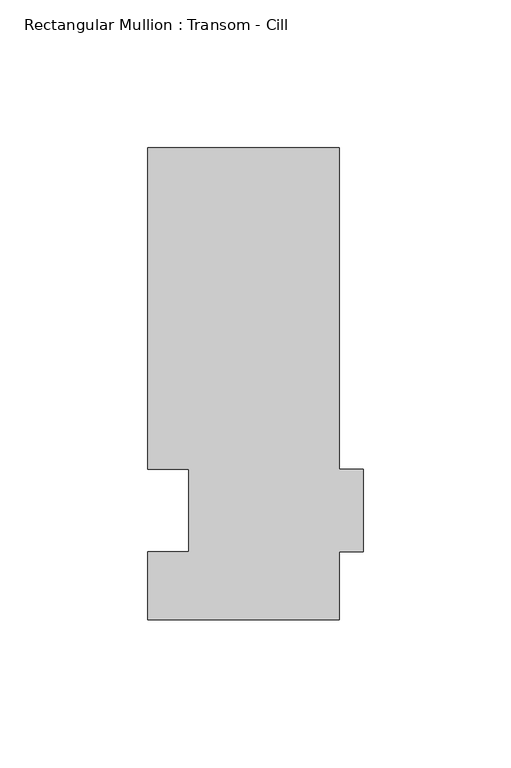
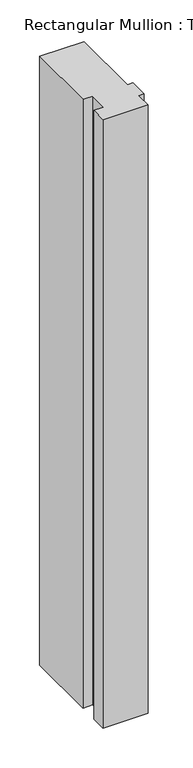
"""IFC4 building model written with IfcOpenShell, lengths in millimetres: member geometry, Rectangular Mullion : Transom - Cill."""

import ifcopenshell
import ifcopenshell.guid

model = None  # the IFC model being written
_history = None  # IfcOwnerHistory: only IFC2X3 demands one
_inside = {}  # id of a spatial element -> (the spatial element, [elements in it])
_under = {}  # id of a project, library or spatial element -> (it, [spatial elements below it])
_declared = {}  # id of a project -> (the project, [libraries it declares])
_typed = {}  # id of a type object -> (the type object, [elements of that type])
_made_of = {}  # id of a material, layer set ... -> (it, [elements and type objects made of it])


def new_model(schema):
    """Start an empty IFC model of exactly this schema.

    Asked for "IFC4X3", IfcOpenShell would pick the latest addendum, in which some entities
    have other attributes; the version numbers below select the first issue.
    IFC2X3 requires an IfcOwnerHistory on every rooted entity: one is made here for all.
    """
    global model, _history
    if schema == "IFC4X3":
        model = ifcopenshell.file(schema_version=(4, 3, 0, 0))
    else:
        model = ifcopenshell.file(schema=schema)
    _inside.clear()
    _under.clear()
    _declared.clear()
    _typed.clear()
    _made_of.clear()
    _history = None
    if model.schema == "IFC2X3":
        org = make("IfcOrganization", Name="unknown")
        user = make(
            "IfcPersonAndOrganization",
            ThePerson=make("IfcPerson", FamilyName="unknown"),
            TheOrganization=org,
        )
        app = make(
            "IfcApplication",
            ApplicationDeveloper=org,
            Version="unknown",
            ApplicationFullName="unknown",
            ApplicationIdentifier="unknown",
        )
        _history = make(
            "IfcOwnerHistory",
            OwningUser=user,
            OwningApplication=app,
            ChangeAction="ADDED",
            CreationDate=0,
        )
    return model


def make(cls, **values):
    """One entity of the class cls with the attributes given. An attribute that is None is left unset."""
    return model.create_entity(
        cls, **{name: value for name, value in values.items() if value is not None}
    )


def rooted(cls, **values):
    """An entity with a GlobalId (a new one), such as an element, a storey or a relation."""
    return make(cls, GlobalId=ifcopenshell.guid.new(), OwnerHistory=_history, **values)


def si_unit(unit_type, name, prefix=None):
    """IfcSIUnit, for example si_unit("LENGTHUNIT", "METRE", prefix="MILLI")."""
    return make("IfcSIUnit", UnitType=unit_type, Prefix=prefix, Name=name)


def assignment(units):
    """IfcUnitAssignment: the units of a project."""
    return None if units is None else make("IfcUnitAssignment", Units=units)


def point(xyz):
    """IfcCartesianPoint."""
    return None if xyz is None else make("IfcCartesianPoint", Coordinates=xyz)


def direction(xyz):
    """IfcDirection."""
    return None if xyz is None else make("IfcDirection", DirectionRatios=xyz)


def frame(location, z_axis=None, x_axis=None):
    """IfcAxis2Placement3D, a coordinate frame: its origin and axes. An axis left out is left unset."""
    return make(
        "IfcAxis2Placement3D",
        Location=point(location),
        Axis=direction(z_axis),
        RefDirection=direction(x_axis),
    )


def origin():
    """The frame at (0, 0, 0) with its axes left unset."""
    return frame((0.0, 0.0, 0.0))


def place(relative_to, where):
    """IfcLocalPlacement: puts the frame where relative to a parent placement (None: the world)."""
    return make(
        "IfcLocalPlacement", PlacementRelTo=relative_to, RelativePlacement=where
    )


def context(
    kind, dimensions, precision=None, world=None, true_north=None, identifier=None
):
    """IfcGeometricRepresentationContext, for example the 3D "Model" context."""
    return make(
        "IfcGeometricRepresentationContext",
        ContextIdentifier=identifier,
        ContextType=kind,
        CoordinateSpaceDimension=dimensions,
        Precision=precision,
        WorldCoordinateSystem=world,
        TrueNorth=true_north,
    )


def project(units=None, contexts=None):
    """IfcProject with its units and contexts."""
    return rooted(
        "IfcProject",
        Name="project",
        RepresentationContexts=contexts,
        UnitsInContext=assignment(units),
    )


def spatial(cls, under=None, at=None, **own):
    """A site, building, storey or space (cls), placed at a placement, below another one or the project."""
    s = rooted(cls, ObjectPlacement=at, **own)
    if under is not None:
        _under.setdefault(under.id(), (under, []))[1].append(s)
    return s


def polyline(points):
    """IfcPolyline through the points."""
    return make("IfcPolyline", Points=[point(p) for p in points])


def outline(outer, holes=None, kind="AREA"):
    """IfcArbitraryClosedProfileDef: a profile drawn as a closed curve; with holes, ...WithVoids."""
    if holes is None:
        return make("IfcArbitraryClosedProfileDef", ProfileType=kind, OuterCurve=outer)
    return make(
        "IfcArbitraryProfileDefWithVoids",
        ProfileType=kind,
        OuterCurve=outer,
        InnerCurves=holes,
    )


def extrude(swept, where, along, depth):
    """IfcExtrudedAreaSolid: the profile swept, set in the frame where, extruded along a direction by depth."""
    return make(
        "IfcExtrudedAreaSolid",
        SweptArea=swept,
        Position=where,
        ExtrudedDirection=direction(along),
        Depth=depth,
    )


def shape(context_of_items, identifier, shape_type, items):
    """IfcShapeRepresentation: the items that make up one representation, for example the "Body"."""
    return make(
        "IfcShapeRepresentation",
        ContextOfItems=context_of_items,
        RepresentationIdentifier=identifier,
        RepresentationType=shape_type,
        Items=items,
    )


def source(mapping_origin, context_of_items, identifier, shape_type, items):
    """IfcRepresentationMap: a shape defined once, which mapped items show again and again."""
    return make(
        "IfcRepresentationMap",
        MappingOrigin=mapping_origin,
        MappedRepresentation=shape(context_of_items, identifier, shape_type, items),
    )


def transform(
    local_origin,
    x_axis=None,
    y_axis=None,
    z_axis=None,
    scale=None,
    scale2=None,
    scale3=None,
    uniform=True,
):
    """IfcCartesianTransformationOperator3D, or its non-uniform kind. x_axis, y_axis, z_axis: its Axis1, 2, 3."""
    if uniform:
        return make(
            "IfcCartesianTransformationOperator3D",
            Axis1=direction(x_axis),
            Axis2=direction(y_axis),
            LocalOrigin=point(local_origin),
            Scale=scale,
            Axis3=direction(z_axis),
        )
    return make(
        "IfcCartesianTransformationOperator3DnonUniform",
        Axis1=direction(x_axis),
        Axis2=direction(y_axis),
        LocalOrigin=point(local_origin),
        Scale=scale,
        Axis3=direction(z_axis),
        Scale2=scale2,
        Scale3=scale3,
    )


def mapped(mapping_source, mapping_target):
    """IfcMappedItem: shows the shape of a source again, moved by a transform."""
    return make(
        "IfcMappedItem", MappingSource=mapping_source, MappingTarget=mapping_target
    )


def made_of(thing, what):
    """Note that an element or type object is made of a material, layer set ...; save() writes the relation."""
    if what is not None:
        _made_of.setdefault(what.id(), (what, []))[1].append(thing)
    return thing


def element(
    cls,
    number,
    at=None,
    inside=None,
    cuts=None,
    type_object=None,
    material=None,
    context=None,
    identifier="Body",
    shape_type=None,
    held_by="IfcProductDefinitionShape",
    body=None,
    shapes=None,
    **own,
):
    """One element of the class cls, such as IfcWall. Its Tag is "e" and its number.

    at: its placement. inside: the storey or other place that contains it. cuts: it is an
    opening in that element (IfcRelVoidsElement). A single representation is given by context,
    identifier, shape_type and body (its items); several are given by shapes. held_by: the class
    of the entity that holds the representations. save() writes the other relations.
    """
    e = rooted(cls, Tag="e%d" % number, ObjectPlacement=at, **own)
    if body is not None:
        shapes = [shape(context, identifier, shape_type, body)]
    if shapes is not None:
        e.Representation = make(held_by, Representations=shapes)
    if inside is not None:
        _inside.setdefault(inside.id(), (inside, []))[1].append(e)
    if cuts is not None:
        rooted(
            "IfcRelVoidsElement", RelatingBuildingElement=cuts, RelatedOpeningElement=e
        )
    if type_object is not None:
        _typed.setdefault(type_object.id(), (type_object, []))[1].append(e)
    return made_of(e, material)


def aggregate(whole, parts):
    """IfcRelAggregates: a whole, such as a stair, and the parts it consists of."""
    return rooted("IfcRelAggregates", RelatingObject=whole, RelatedObjects=parts)


def save(model, path):
    """Write the relations noted so far, then the file.

    IfcRelAggregates (storeys below a building ...), IfcRelContainedInSpatialStructure (elements
    in a storey), IfcRelDefinesByType, IfcRelAssociatesMaterial and IfcRelDeclares: one each for
    every whole, place, type object, material and project.
    """
    for whole, parts in _under.values():
        aggregate(whole, parts)
    for where, things in _inside.values():
        rooted(
            "IfcRelContainedInSpatialStructure",
            RelatedElements=things,
            RelatingStructure=where,
        )
    for kind, things in _typed.values():
        rooted("IfcRelDefinesByType", RelatedObjects=things, RelatingType=kind)
    for what, things in _made_of.values():
        rooted("IfcRelAssociatesMaterial", RelatedObjects=things, RelatingMaterial=what)
    for by, libraries in _declared.values():
        rooted("IfcRelDeclares", RelatingContext=by, RelatedDefinitions=libraries)
    model.write(path)


def rectangular_mullion_transom_cill_c45ca5f9(model_context):
    return source(origin(), model_context, "Body", "SweptSolid", [
        extrude(outline(polyline([(-8.0, -14.0), (-8.0, -37.0307322), (-73.0, -37.0307322), (-73.0, -14.0), (-59.0, -14.0), (-59.0, 14.0), (-73.0, 14.0), (-73.0, 123.0), (-8.0, 123.0), (-8.0, 14.0), (0.0, 14.0), (0.0, -14.0), (-8.0, -14.0)])), frame((0.0, 0.0, -935.0), z_axis=(0.0, 0.0, 1.0), x_axis=(1.0, 0.0, 0.0)), (0.0, 0.0, 1.0), 935.0),
    ])


if __name__ == "__main__":
    model = new_model("IFC4")
    model_context = context("Model", 3, world=origin())
    ifc_project = project(units=[si_unit("LENGTHUNIT", "METRE", prefix="MILLI")], contexts=[model_context])
    site = spatial("IfcSite", under=ifc_project)
    building = spatial("IfcBuilding", under=site)
    placement = place(None, origin())
    rectangular_mullion_transom_cill_shape = rectangular_mullion_transom_cill_c45ca5f9(model_context)
    element("IfcMember", 1, ObjectType="Rectangular Mullion : Transom - Cill", at=placement, inside=building, context=model_context, shape_type="MappedRepresentation", body=[
        mapped(rectangular_mullion_transom_cill_shape, transform((0.0, 0.0, 0.0), x_axis=(1.0, 0.0, 0.0), y_axis=(0.0, 1.0, 0.0), z_axis=(0.0, 0.0, 1.0))),
    ])
    save(model, "model.ifc")
